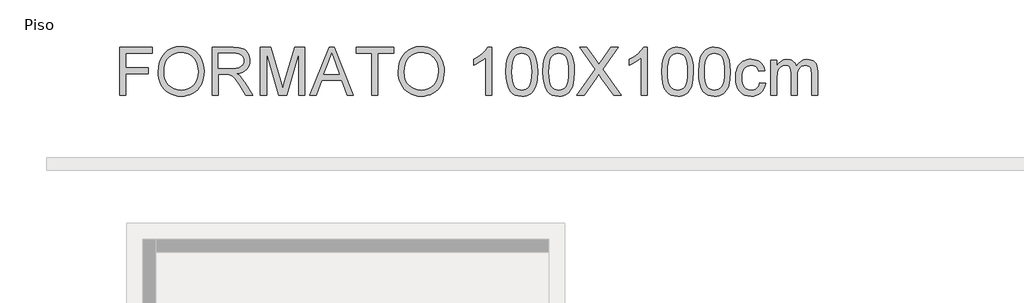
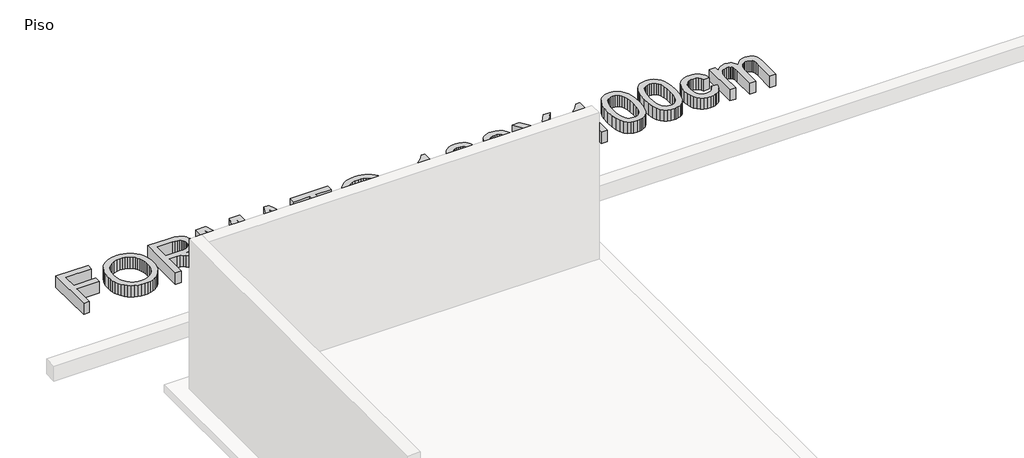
# One storey, part 2 of 2: 1 proxy.
"""IFC4 building model written with IfcOpenShell, lengths in millimetres."""

import ifcopenshell
import ifcopenshell.guid

model = None  # the IFC model being written
_history = None  # IfcOwnerHistory: only IFC2X3 demands one
_inside = {}  # id of a spatial element -> (the spatial element, [elements in it])
_under = {}  # id of a project, library or spatial element -> (it, [spatial elements below it])
_declared = {}  # id of a project -> (the project, [libraries it declares])
_typed = {}  # id of a type object -> (the type object, [elements of that type])
_made_of = {}  # id of a material, layer set ... -> (it, [elements and type objects made of it])


def new_model(schema):
    """Start an empty IFC model of exactly this schema.

    Asked for "IFC4X3", IfcOpenShell would pick the latest addendum, in which some entities
    have other attributes; the version numbers below select the first issue.
    IFC2X3 requires an IfcOwnerHistory on every rooted entity: one is made here for all.
    """
    global model, _history
    if schema == "IFC4X3":
        model = ifcopenshell.file(schema_version=(4, 3, 0, 0))
    else:
        model = ifcopenshell.file(schema=schema)
    _inside.clear()
    _under.clear()
    _declared.clear()
    _typed.clear()
    _made_of.clear()
    _history = None
    if model.schema == "IFC2X3":
        org = make("IfcOrganization", Name="unknown")
        user = make(
            "IfcPersonAndOrganization",
            ThePerson=make("IfcPerson", FamilyName="unknown"),
            TheOrganization=org,
        )
        app = make(
            "IfcApplication",
            ApplicationDeveloper=org,
            Version="unknown",
            ApplicationFullName="unknown",
            ApplicationIdentifier="unknown",
        )
        _history = make(
            "IfcOwnerHistory",
            OwningUser=user,
            OwningApplication=app,
            ChangeAction="ADDED",
            CreationDate=0,
        )
    return model


def make(cls, **values):
    """One entity of the class cls with the attributes given. An attribute that is None is left unset."""
    return model.create_entity(
        cls, **{name: value for name, value in values.items() if value is not None}
    )


def rooted(cls, **values):
    """An entity with a GlobalId (a new one), such as an element, a storey or a relation."""
    return make(cls, GlobalId=ifcopenshell.guid.new(), OwnerHistory=_history, **values)


def si_unit(unit_type, name, prefix=None):
    """IfcSIUnit, for example si_unit("LENGTHUNIT", "METRE", prefix="MILLI")."""
    return make("IfcSIUnit", UnitType=unit_type, Prefix=prefix, Name=name)


def assignment(units):
    """IfcUnitAssignment: the units of a project."""
    return None if units is None else make("IfcUnitAssignment", Units=units)


def point(xyz):
    """IfcCartesianPoint."""
    return None if xyz is None else make("IfcCartesianPoint", Coordinates=xyz)


def direction(xyz):
    """IfcDirection."""
    return None if xyz is None else make("IfcDirection", DirectionRatios=xyz)


def frame(location, z_axis=None, x_axis=None):
    """IfcAxis2Placement3D, a coordinate frame: its origin and axes. An axis left out is left unset."""
    return make(
        "IfcAxis2Placement3D",
        Location=point(location),
        Axis=direction(z_axis),
        RefDirection=direction(x_axis),
    )


def origin():
    """The frame at (0, 0, 0) with its axes left unset."""
    return frame((0.0, 0.0, 0.0))


def origin_with_axes():
    """The frame at (0, 0, 0) with the z axis (0, 0, 1) and the x axis (1, 0, 0) written out."""
    return frame((0.0, 0.0, 0.0), z_axis=(0.0, 0.0, 1.0), x_axis=(1.0, 0.0, 0.0))


def place(relative_to, where):
    """IfcLocalPlacement: puts the frame where relative to a parent placement (None: the world)."""
    return make(
        "IfcLocalPlacement", PlacementRelTo=relative_to, RelativePlacement=where
    )


def context(
    kind, dimensions, precision=None, world=None, true_north=None, identifier=None
):
    """IfcGeometricRepresentationContext, for example the 3D "Model" context."""
    return make(
        "IfcGeometricRepresentationContext",
        ContextIdentifier=identifier,
        ContextType=kind,
        CoordinateSpaceDimension=dimensions,
        Precision=precision,
        WorldCoordinateSystem=world,
        TrueNorth=true_north,
    )


def project(units=None, contexts=None):
    """IfcProject with its units and contexts."""
    return rooted(
        "IfcProject",
        Name="project",
        RepresentationContexts=contexts,
        UnitsInContext=assignment(units),
    )


def spatial(cls, under=None, at=None, **own):
    """A site, building, storey or space (cls), placed at a placement, below another one or the project."""
    s = rooted(cls, ObjectPlacement=at, **own)
    if under is not None:
        _under.setdefault(under.id(), (under, []))[1].append(s)
    return s


def polyline(points):
    """IfcPolyline through the points."""
    return make("IfcPolyline", Points=[point(p) for p in points])


def outline(outer, holes=None, kind="AREA"):
    """IfcArbitraryClosedProfileDef: a profile drawn as a closed curve; with holes, ...WithVoids."""
    if holes is None:
        return make("IfcArbitraryClosedProfileDef", ProfileType=kind, OuterCurve=outer)
    return make(
        "IfcArbitraryProfileDefWithVoids",
        ProfileType=kind,
        OuterCurve=outer,
        InnerCurves=holes,
    )


def extrude(swept, where, along, depth):
    """IfcExtrudedAreaSolid: the profile swept, set in the frame where, extruded along a direction by depth."""
    return make(
        "IfcExtrudedAreaSolid",
        SweptArea=swept,
        Position=where,
        ExtrudedDirection=direction(along),
        Depth=depth,
    )


def shape(context_of_items, identifier, shape_type, items):
    """IfcShapeRepresentation: the items that make up one representation, for example the "Body"."""
    return make(
        "IfcShapeRepresentation",
        ContextOfItems=context_of_items,
        RepresentationIdentifier=identifier,
        RepresentationType=shape_type,
        Items=items,
    )


def made_of(thing, what):
    """Note that an element or type object is made of a material, layer set ...; save() writes the relation."""
    if what is not None:
        _made_of.setdefault(what.id(), (what, []))[1].append(thing)
    return thing


def element(
    cls,
    number,
    at=None,
    inside=None,
    cuts=None,
    type_object=None,
    material=None,
    context=None,
    identifier="Body",
    shape_type=None,
    held_by="IfcProductDefinitionShape",
    body=None,
    shapes=None,
    **own,
):
    """One element of the class cls, such as IfcWall. Its Tag is "e" and its number.

    at: its placement. inside: the storey or other place that contains it. cuts: it is an
    opening in that element (IfcRelVoidsElement). A single representation is given by context,
    identifier, shape_type and body (its items); several are given by shapes. held_by: the class
    of the entity that holds the representations. save() writes the other relations.
    """
    e = rooted(cls, Tag="e%d" % number, ObjectPlacement=at, **own)
    if body is not None:
        shapes = [shape(context, identifier, shape_type, body)]
    if shapes is not None:
        e.Representation = make(held_by, Representations=shapes)
    if inside is not None:
        _inside.setdefault(inside.id(), (inside, []))[1].append(e)
    if cuts is not None:
        rooted(
            "IfcRelVoidsElement", RelatingBuildingElement=cuts, RelatedOpeningElement=e
        )
    if type_object is not None:
        _typed.setdefault(type_object.id(), (type_object, []))[1].append(e)
    return made_of(e, material)


def aggregate(whole, parts):
    """IfcRelAggregates: a whole, such as a stair, and the parts it consists of."""
    return rooted("IfcRelAggregates", RelatingObject=whole, RelatedObjects=parts)


def save(model, path):
    """Write the relations noted so far, then the file.

    IfcRelAggregates (storeys below a building ...), IfcRelContainedInSpatialStructure (elements
    in a storey), IfcRelDefinesByType, IfcRelAssociatesMaterial and IfcRelDeclares: one each for
    every whole, place, type object, material and project.
    """
    for whole, parts in _under.values():
        aggregate(whole, parts)
    for where, things in _inside.values():
        rooted(
            "IfcRelContainedInSpatialStructure",
            RelatedElements=things,
            RelatingStructure=where,
        )
    for kind, things in _typed.values():
        rooted("IfcRelDefinesByType", RelatedObjects=things, RelatingType=kind)
    for what, things in _made_of.values():
        rooted("IfcRelAssociatesMaterial", RelatedObjects=things, RelatingMaterial=what)
    for by, libraries in _declared.values():
        rooted("IfcRelDeclares", RelatingContext=by, RelatedDefinitions=libraries)
    model.write(path)


model = new_model("IFC4")

# Units and contexts
model_context = context("Model", 3, world=origin())
ifc_project = project(units=[si_unit("LENGTHUNIT", "METRE", prefix="MILLI")], contexts=[model_context])

# Site, building, storey
site = spatial("IfcSite", under=ifc_project)
building = spatial("IfcBuilding", under=site)
storey = spatial("IfcBuildingStorey", under=building, Name="Piso", Elevation=0.0)

# Proxy
placement = place(None, origin())
element("IfcBuildingElementProxy", 1, Name="600mm Arial", ObjectType="600mm Arial", at=placement, inside=storey, context=model_context, shape_type="SweptSolid", body=[
    extrude(outline(polyline([(92602.0859381, 2702.6380465), (92602.0859381, 3305.3759074), (93007.0504384, 3305.3759074), (93007.0504384, 3230.0336748), (92677.4281707, 3230.0336748), (92677.4281707, 3051.0958724), (92959.961543, 3051.0958724), (92959.961543, 2975.7536397), (92677.4281707, 2975.7536397), (92677.4281707, 2702.6380465), (92602.0859381, 2702.6380465)])), origin_with_axes(), (0.0, 0.0, 1.0), 150.0),
    extrude(outline(polyline([(93082.392671, 2996.0607259), (93087.4142602, 3066.7584483), (93102.4790279, 3129.3443727), (93127.5869741, 3183.8184992), (93143.9071391, 3208.0136381), (93162.7380987, 3230.1808276), (93205.8262774, 3267.1989534), (93254.7453857, 3293.6404718), (93309.4954237, 3309.5053828), (93370.0763912, 3314.7936865), (93410.6261841, 3312.310483), (93449.134232, 3304.8608726), (93485.6005348, 3292.4448553), (93520.0250925, 3275.062431), (93551.4422148, 3253.2378317), (93578.8862117, 3227.495289), (93602.357083, 3197.8348032), (93621.8548287, 3164.2563741), (93637.1771138, 3127.5233569), (93648.1216032, 3088.3991067), (93654.6882968, 3046.8836235), (93656.8771947, 3002.9769074), (93654.5733337, 2958.4907771), (93647.6617507, 2916.4142739), (93636.1424457, 2876.7473978), (93620.0154187, 2839.4901487), (93599.6623474, 2805.6266111), (93575.4649091, 2776.1408692), (93547.423104, 2751.032923), (93515.5369321, 2730.3027726), (93481.0617906, 2714.0791766), (93445.2530769, 2702.4908937), (93408.110791, 2695.537924), (93369.6349328, 2693.2202674), (93328.3769671, 2695.7816458), (93289.3630815, 2703.465781), (93252.5932761, 2716.272673), (93218.0675508, 2734.2023217), (93186.6872166, 2756.56035), (93159.3535844, 2782.6523805), (93136.0666541, 2812.4784132), (93116.8264257, 2846.0384482), (93101.761658, 2881.9851177), (93091.0011097, 2918.9710538), (93084.5447807, 2956.9962565), (93082.392671, 2996.0607259)]), holes=[polyline([(93157.7349036, 2995.3249619), (93161.5010955, 2945.375784), (93172.7996713, 2901.0368065), (93191.6306309, 2862.3080295), (93217.9939744, 2829.1894529), (93250.0410947, 2802.665161), (93285.9233848, 2783.7192383), (93325.6408447, 2772.3516846), (93369.1934744, 2768.5625001), (93413.4910652, 2772.3884728), (93453.6775746, 2783.8663911), (93489.7530028, 2802.9962548), (93521.7173496, 2829.7780641), (93547.8875551, 2863.5956165), (93566.5805589, 2903.8327097), (93577.7963613, 2950.4893437), (93581.5349621, 3003.5655186), (93579.9346754, 3038.0452586), (93575.1338153, 3070.2625243), (93567.1323819, 3100.2173158), (93555.9303752, 3127.9096329), (93541.6519553, 3152.9761924), (93524.4212823, 3175.0537106), (93504.2383563, 3194.1421877), (93481.1031774, 3210.2416235), (93455.7331153, 3223.0209243), (93428.84554, 3232.1489963), (93400.4404514, 3237.6258395), (93370.5178496, 3239.4514539), (93328.4781346, 3235.9335823), (93289.4734461, 3225.3799676), (93253.503784, 3207.7906097), (93220.5691484, 3183.1655086), (93193.0791663, 3150.318245), (93173.4434648, 3108.0623993), (93161.6620439, 3056.3979716), (93157.7349036, 2995.3249619)])]), origin_with_axes(), (0.0, 0.0, 1.0), 150.0),
    extrude(outline(polyline([(93760.4727645, 2702.6380465), (93760.4727645, 3305.3759074), (94020.1974531, 3305.3759074), (94090.0030617, 3301.3108114), (94140.7891711, 3289.1155232), (94160.3880844, 3279.4218327), (94177.9084644, 3266.6011451), (94193.3503112, 3250.6534606), (94206.7136247, 3231.5787792), (94217.4971656, 3210.4025718), (94225.1996949, 3188.1503097), (94229.8212125, 3164.8219926), (94231.3617183, 3140.4176208), (94228.809537, 3109.4603509), (94221.152993, 3081.0414668), (94208.3920863, 3055.1609684), (94190.5268169, 3031.8188558), (94167.3272585, 3011.76009), (94138.563485, 2995.7296321), (94104.2354964, 2983.727482), (94064.3432925, 2975.7536397), (94089.1753272, 2959.5300438), (94107.1647568, 2943.527177), (94138.0300562, 2906.9229184), (94168.233168, 2865.9776524), (94268.738529, 2702.6380465), (94181.1826142, 2702.6380465), (94102.7501728, 2827.5707721), (94046.0963456, 2910.2706446), (94025.0351013, 2934.3853094), (94006.2915137, 2949.3397125), (93970.4598074, 2963.6871103), (93926.7554263, 2966.3358607), (93835.8149971, 2966.3358607), (93835.8149971, 2702.6380465), (93760.4727645, 2702.6380465)]), holes=[polyline([(93835.8149971, 3041.6780933), (94004.4521037, 3041.6780933), (94052.8837684, 3044.3452377), (94090.4629142, 3052.3466711), (94118.7530396, 3066.2158224), (94139.3176431, 3086.4861203), (94151.8440251, 3111.0054553), (94156.0194857, 3137.6217176), (94154.0283244, 3156.8895371), (94148.0548405, 3174.3731289), (94138.099034, 3190.0724931), (94124.1609049, 3203.9876296), (94105.9185565, 3215.3827744), (94083.050092, 3223.5221635), (94055.5555114, 3228.405797), (94023.4348147, 3230.0336748), (93835.8149971, 3230.0336748), (93835.8149971, 3041.6780933)])]), origin_with_axes(), (0.0, 0.0, 1.0), 150.0),
    extrude(outline(polyline([(94363.2106254, 2702.6380465), (94363.2106254, 3305.3759074), (94492.8522405, 3305.3759074), (94616.1662853, 2880.5457794), (94641.0351082, 2791.8126422), (94667.9640702, 2887.9034193), (94789.2179758, 3305.3759074), (94918.8595909, 3305.3759074), (94918.8595909, 2702.6380465), (94843.5173583, 2702.6380465), (94843.5173583, 3230.0336748), (94692.0971291, 2702.6380465), (94589.9730872, 2702.6380465), (94438.552858, 3230.0336748), (94438.552858, 2702.6380465), (94363.2106254, 2702.6380465)])), origin_with_axes(), (0.0, 0.0, 1.0), 150.0),
    extrude(outline(polyline([(94980.5166133, 2702.6380465), (95221.1114382, 3305.3759074), (95285.2700581, 3305.3759074), (95525.864883, 2702.6380465), (95446.2552192, 2702.6380465), (95377.2405569, 2890.9936281), (95128.9937866, 2890.9936281), (95060.1262771, 2702.6380465), (94980.5166133, 2702.6380465)]), holes=[polyline([(95156.6585126, 2966.3358607), (95349.7229837, 2966.3358607), (95295.4236012, 3114.5187283), (95253.1907481, 3230.0336748), (95215.6667846, 3127.4681746), (95156.6585126, 2966.3358607)])]), origin_with_axes(), (0.0, 0.0, 1.0), 150.0),
    extrude(outline(polyline([(95757.0419287, 2702.6380465), (95757.0419287, 3230.0336748), (95559.2685681, 3230.0336748), (95559.2685681, 3305.3759074), (96030.1575219, 3305.3759074), (96030.1575219, 3230.0336748), (95832.3841613, 3230.0336748), (95832.3841613, 2702.6380465), (95757.0419287, 2702.6380465)])), origin_with_axes(), (0.0, 0.0, 1.0), 150.0),
    extrude(outline(polyline([(96086.6641964, 2996.0607259), (96091.6857856, 3066.7584483), (96106.7505533, 3129.3443727), (96131.8584995, 3183.8184992), (96148.1786645, 3208.0136381), (96167.0096242, 3230.1808276), (96210.0978028, 3267.1989534), (96259.0169111, 3293.6404718), (96313.7669491, 3309.5053828), (96374.3479166, 3314.7936865), (96414.8977096, 3312.310483), (96453.4057574, 3304.8608726), (96489.8720602, 3292.4448553), (96524.2966179, 3275.062431), (96555.7137403, 3253.2378317), (96583.1577371, 3227.495289), (96606.6286084, 3197.8348032), (96626.1263541, 3164.2563741), (96641.4486392, 3127.5233569), (96652.3931286, 3088.3991067), (96658.9598222, 3046.8836235), (96661.1487201, 3002.9769074), (96658.8448591, 2958.4907771), (96651.9332761, 2916.4142739), (96640.4139711, 2876.7473978), (96624.2869442, 2839.4901487), (96603.9338728, 2805.6266111), (96579.7364345, 2776.1408692), (96551.6946295, 2751.032923), (96519.8084575, 2730.3027726), (96485.3333161, 2714.0791766), (96449.5246024, 2702.4908937), (96412.3823164, 2695.537924), (96373.9064582, 2693.2202674), (96332.6484925, 2695.7816458), (96293.6346069, 2703.465781), (96256.8648015, 2716.272673), (96222.3390762, 2734.2023217), (96190.958742, 2756.56035), (96163.6251098, 2782.6523805), (96140.3381795, 2812.4784132), (96121.0979512, 2846.0384482), (96106.0331835, 2881.9851177), (96095.2726351, 2918.9710538), (96088.8163061, 2956.9962565), (96086.6641964, 2996.0607259)]), holes=[polyline([(96162.006429, 2995.3249619), (96165.7726209, 2945.375784), (96177.0711967, 2901.0368065), (96195.9021564, 2862.3080295), (96222.2654998, 2829.1894529), (96254.3126201, 2802.665161), (96290.1949102, 2783.7192383), (96329.9123701, 2772.3516846), (96373.4649998, 2768.5625001), (96417.7625906, 2772.3884728), (96457.9491, 2783.8663911), (96494.0245282, 2802.9962548), (96525.988875, 2829.7780641), (96552.1590805, 2863.5956165), (96570.8520844, 2903.8327097), (96582.0678867, 2950.4893437), (96585.8064875, 3003.5655186), (96584.2062008, 3038.0452586), (96579.4053407, 3070.2625243), (96571.4039074, 3100.2173158), (96560.2019006, 3127.9096329), (96545.9234807, 3152.9761924), (96528.6928077, 3175.0537106), (96508.5098818, 3194.1421877), (96485.3747028, 3210.2416235), (96460.0046407, 3223.0209243), (96433.1170654, 3232.1489963), (96404.7119768, 3237.6258395), (96374.789375, 3239.4514539), (96332.74966, 3235.9335823), (96293.7449715, 3225.3799676), (96257.7753094, 3207.7906097), (96224.8406738, 3183.1655086), (96197.3506917, 3150.318245), (96177.7149902, 3108.0623993), (96165.9335693, 3056.3979716), (96162.006429, 2995.3249619)])]), origin_with_axes(), (0.0, 0.0, 1.0), 150.0),
    extrude(outline(polyline([(97254.4688019, 2702.6380465), (97179.1265693, 2702.6380465), (97179.1265693, 3172.349778), (97147.6726587, 3146.910738), (97107.7574622, 3121.5084862), (97065.855703, 3099.3068078), (97028.4421041, 3083.4694879), (97028.4421041, 3154.6914422), (97087.615923, 3186.8811168), (97138.880279, 3225.1776325), (97179.2921162, 3265.9021693), (97205.9083785, 3305.3759074), (97254.4688019, 3305.3759074), (97254.4688019, 2702.6380465)])), origin_with_axes(), (0.0, 0.0, 1.0), 150.0),
    extrude(outline(polyline([(97433.4066044, 2999.1509346), (97438.9432284, 3095.6279879), (97445.8640084, 3136.5410643), (97455.5531005, 3172.5705072), (97467.9691178, 3204.0106222), (97483.0706737, 3231.1557149), (97500.8577682, 3254.0057853), (97521.3304012, 3272.5608335), (97544.5575507, 3286.9174283), (97570.6081945, 3297.1721389), (97599.4823325, 3303.3249653), (97631.179965, 3305.3759074), (97677.6066727, 3300.5198651), (97719.1773382, 3285.9517381), (97753.9421867, 3262.2417435), (97779.9514438, 3229.9600984), (97799.5963424, 3189.3827143), (97815.2681153, 3140.7855028), (97825.532023, 3079.0732981), (97828.9533256, 2999.1509346), (97823.4718838, 2903.2257044), (97816.6200817, 2862.4505838), (97807.0275587, 2826.4671261), (97794.7081103, 2795.0132155), (97779.6755323, 2767.8267361), (97761.9298246, 2744.9076878), (97741.4709871, 2726.2560706), (97718.2162465, 2711.8029067), (97692.0828293, 2701.4792182), (97663.0707354, 2695.2850051), (97631.179965, 2693.2202674), (97589.6828759, 2696.8071169), (97552.8946764, 2707.5676653), (97520.8153664, 2725.5019125), (97493.444946, 2750.6098587), (97467.1781715, 2795.9972999), (97448.4161898, 2852.5499596), (97437.1590007, 2920.2678378), (97433.4066044, 2999.1509346)]), holes=[polyline([(97508.748837, 2999.2980874), (97510.9561289, 2933.8012967), (97517.5780048, 2880.7849027), (97528.6144647, 2840.2489053), (97544.0655085, 2812.1933047), (97562.7539139, 2793.1048277), (97583.5024584, 2779.4702012), (97606.3111421, 2771.2894254), (97631.179965, 2768.5625001), (97656.0487878, 2771.2986224), (97678.8574715, 2779.5069894), (97699.6060161, 2793.1876011), (97718.2944214, 2812.3404575), (97733.7454652, 2840.4420434), (97744.7819251, 2880.9688437), (97751.403801, 2933.9208584), (97753.611093, 2999.2980874), (97751.4773774, 3063.0612342), (97745.0762307, 3115.1441277), (97734.4076528, 3155.5467678), (97719.4716438, 3184.2691546), (97701.0959381, 3204.2911322), (97680.1082703, 3218.5925448), (97656.5086403, 3227.1733923), (97630.2970482, 3230.0336748), (97605.556984, 3227.5136831), (97583.1345764, 3219.9537081), (97563.0298254, 3207.3537498), (97545.2427309, 3189.7138081), (97529.2766523, 3158.4438385), (97517.8723104, 3116.2845619), (97511.0297053, 3063.2359782), (97508.748837, 2999.2980874)])]), origin_with_axes(), (0.0, 0.0, 1.0), 150.0),
    extrude(outline(polyline([(97894.8777791, 2999.1509346), (97900.4144031, 3095.6279879), (97907.3351832, 3136.5410643), (97917.0242752, 3172.5705072), (97929.4402925, 3204.0106222), (97944.5418484, 3231.1557149), (97962.3289429, 3254.0057853), (97982.8015759, 3272.5608335), (98006.0287254, 3286.9174283), (98032.0793692, 3297.1721389), (98060.9535073, 3303.3249653), (98092.6511397, 3305.3759074), (98139.0778475, 3300.5198651), (98180.648513, 3285.9517381), (98215.4133615, 3262.2417435), (98241.4226186, 3229.9600984), (98261.0675171, 3189.3827143), (98276.7392901, 3140.7855028), (98287.0031978, 3079.0732981), (98290.4245003, 2999.1509346), (98284.9430586, 2903.2257044), (98278.0912564, 2862.4505838), (98268.4987334, 2826.4671261), (98256.1792851, 2795.0132155), (98241.1467071, 2767.8267361), (98223.4009993, 2744.9076878), (98202.9421619, 2726.2560706), (98179.6874212, 2711.8029067), (98153.554004, 2701.4792182), (98124.5419102, 2695.2850051), (98092.6511397, 2693.2202674), (98051.1540507, 2696.8071169), (98014.3658511, 2707.5676653), (97982.2865412, 2725.5019125), (97954.9161207, 2750.6098587), (97928.6493463, 2795.9972999), (97909.8873645, 2852.5499596), (97898.6301755, 2920.2678378), (97894.8777791, 2999.1509346)]), holes=[polyline([(97970.2200117, 2999.2980874), (97972.4273037, 2933.8012967), (97979.0491796, 2880.7849027), (97990.0856395, 2840.2489053), (98005.5366833, 2812.1933047), (98024.2250886, 2793.1048277), (98044.9736331, 2779.4702012), (98067.7823168, 2771.2894254), (98092.6511397, 2768.5625001), (98117.5199626, 2771.2986224), (98140.3286463, 2779.5069894), (98161.0771908, 2793.1876011), (98179.7655962, 2812.3404575), (98195.21664, 2840.4420434), (98206.2530998, 2880.9688437), (98212.8749757, 2933.9208584), (98215.0822677, 2999.2980874), (98212.9485521, 3063.0612342), (98206.5474054, 3115.1441277), (98195.8788276, 3155.5467678), (98180.9428186, 3184.2691546), (98162.5671129, 3204.2911322), (98141.5794451, 3218.5925448), (98117.9798151, 3227.1733923), (98091.7682229, 3230.0336748), (98067.0281587, 3227.5136831), (98044.6057511, 3219.9537081), (98024.5010001, 3207.3537498), (98006.7139056, 3189.7138081), (97990.747827, 3158.4438385), (97979.3434852, 3116.2845619), (97972.5008801, 3063.2359782), (97970.2200117, 2999.2980874)])]), origin_with_axes(), (0.0, 0.0, 1.0), 150.0),
    extrude(outline(polyline([(98318.6778375, 2702.6380465), (98551.0321057, 3031.0830918), (98356.3489539, 3305.3759074), (98446.7007719, 3305.3759074), (98556.3296064, 3151.0126222), (98582.4860163, 3111.9067662), (98593.2649587, 3090.8271278), (98636.5278814, 3152.0426918), (98744.9794936, 3305.3759074), (98836.6556868, 3305.3759074), (98641.9725349, 3030.200175), (98874.3268031, 2702.6380465), (98783.974985, 2702.6380465), (98629.1702415, 2921.0127989), (98596.9437787, 2966.3358607), (98561.4799544, 2916.5982149), (98410.3540307, 2702.6380465), (98318.6778375, 2702.6380465)])), origin_with_axes(), (0.0, 0.0, 1.0), 150.0),
    extrude(outline(polyline([(99203.9490707, 2702.6380465), (99128.6068381, 2702.6380465), (99128.6068381, 3172.349778), (99097.1529275, 3146.910738), (99057.2377311, 3121.5084862), (99015.3359718, 3099.3068078), (98977.9223729, 3083.4694879), (98977.9223729, 3154.6914422), (99037.0961918, 3186.8811168), (99088.3605479, 3225.1776325), (99128.772385, 3265.9021693), (99155.3886474, 3305.3759074), (99203.9490707, 3305.3759074), (99203.9490707, 2702.6380465)])), origin_with_axes(), (0.0, 0.0, 1.0), 150.0),
    extrude(outline(polyline([(99382.8868732, 2999.1509346), (99388.4234972, 3095.6279879), (99395.3442773, 3136.5410643), (99405.0333693, 3172.5705072), (99417.4493866, 3204.0106222), (99432.5509425, 3231.1557149), (99450.338037, 3254.0057853), (99470.81067, 3272.5608335), (99494.0378195, 3286.9174283), (99520.0884633, 3297.1721389), (99548.9626014, 3303.3249653), (99580.6602338, 3305.3759074), (99627.0869416, 3300.5198651), (99668.657607, 3285.9517381), (99703.4224556, 3262.2417435), (99729.4317126, 3229.9600984), (99749.0766112, 3189.3827143), (99764.7483842, 3140.7855028), (99775.0122919, 3079.0732981), (99778.4335944, 2999.1509346), (99772.9521527, 2903.2257044), (99766.1003505, 2862.4505838), (99756.5078275, 2826.4671261), (99744.1883792, 2795.0132155), (99729.1558012, 2767.8267361), (99711.4100934, 2744.9076878), (99690.951256, 2726.2560706), (99667.6965153, 2711.8029067), (99641.5630981, 2701.4792182), (99612.5510043, 2695.2850051), (99580.6602338, 2693.2202674), (99539.1631447, 2696.8071169), (99502.3749452, 2707.5676653), (99470.2956352, 2725.5019125), (99442.9252148, 2750.6098587), (99416.6584403, 2795.9972999), (99397.8964586, 2852.5499596), (99386.6392695, 2920.2678378), (99382.8868732, 2999.1509346)]), holes=[polyline([(99458.2291058, 2999.2980874), (99460.4363978, 2933.8012967), (99467.0582737, 2880.7849027), (99478.0947335, 2840.2489053), (99493.5457773, 2812.1933047), (99512.2341827, 2793.1048277), (99532.9827272, 2779.4702012), (99555.7914109, 2771.2894254), (99580.6602338, 2768.5625001), (99605.5290567, 2771.2986224), (99628.3377404, 2779.5069894), (99649.0862849, 2793.1876011), (99667.7746903, 2812.3404575), (99683.2257341, 2840.4420434), (99694.2621939, 2880.9688437), (99700.8840698, 2933.9208584), (99703.0913618, 2999.2980874), (99700.9576462, 3063.0612342), (99694.5564995, 3115.1441277), (99683.8879216, 3155.5467678), (99668.9519126, 3184.2691546), (99650.576207, 3204.2911322), (99629.5885392, 3218.5925448), (99605.9889092, 3227.1733923), (99579.777317, 3230.0336748), (99555.0372528, 3227.5136831), (99532.6148452, 3219.9537081), (99512.5100942, 3207.3537498), (99494.7229997, 3189.7138081), (99478.7569211, 3158.4438385), (99467.3525793, 3116.2845619), (99460.5099742, 3063.2359782), (99458.2291058, 2999.2980874)])]), origin_with_axes(), (0.0, 0.0, 1.0), 150.0),
    extrude(outline(polyline([(99844.3580479, 2999.1509346), (99849.894672, 3095.6279879), (99856.815452, 3136.5410643), (99866.5045441, 3172.5705072), (99878.9205614, 3204.0106222), (99894.0221173, 3231.1557149), (99911.8092118, 3254.0057853), (99932.2818448, 3272.5608335), (99955.5089943, 3286.9174283), (99981.559638, 3297.1721389), (100010.4337761, 3303.3249653), (100042.1314085, 3305.3759074), (100088.5581163, 3300.5198651), (100130.1287818, 3285.9517381), (100164.8936303, 3262.2417435), (100190.9028874, 3229.9600984), (100210.5477859, 3189.3827143), (100226.2195589, 3140.7855028), (100236.4834666, 3079.0732981), (100239.9047692, 2999.1509346), (100234.4233274, 2903.2257044), (100227.5715253, 2862.4505838), (100217.9790022, 2826.4671261), (100205.6595539, 2795.0132155), (100190.6269759, 2767.8267361), (100172.8812682, 2744.9076878), (100152.4224307, 2726.2560706), (100129.1676901, 2711.8029067), (100103.0342729, 2701.4792182), (100074.022179, 2695.2850051), (100042.1314085, 2693.2202674), (100000.6343195, 2696.8071169), (99963.84612, 2707.5676653), (99931.76681, 2725.5019125), (99904.3963896, 2750.6098587), (99878.1296151, 2795.9972999), (99859.3676333, 2852.5499596), (99848.1104443, 2920.2678378), (99844.3580479, 2999.1509346)]), holes=[polyline([(99919.7002806, 2999.2980874), (99921.9075725, 2933.8012967), (99928.5294484, 2880.7849027), (99939.5659083, 2840.2489053), (99955.0169521, 2812.1933047), (99973.7053574, 2793.1048277), (99994.453902, 2779.4702012), (100017.2625857, 2771.2894254), (100042.1314085, 2768.5625001), (100067.0002314, 2771.2986224), (100089.8089151, 2779.5069894), (100110.5574597, 2793.1876011), (100129.245865, 2812.3404575), (100144.6969088, 2840.4420434), (100155.7333687, 2880.9688437), (100162.3552446, 2933.9208584), (100164.5625365, 2999.2980874), (100162.428821, 3063.0612342), (100156.0276743, 3115.1441277), (100145.3590964, 3155.5467678), (100130.4230874, 3184.2691546), (100112.0473817, 3204.2911322), (100091.0597139, 3218.5925448), (100067.4600839, 3227.1733923), (100041.2484918, 3230.0336748), (100016.5084276, 3227.5136831), (99994.08602, 3219.9537081), (99973.9812689, 3207.3537498), (99956.1941745, 3189.7138081), (99940.2280959, 3158.4438385), (99928.823754, 3116.2845619), (99921.9811489, 3063.2359782), (99919.7002806, 2999.2980874)])]), origin_with_axes(), (0.0, 0.0, 1.0), 150.0),
    extrude(outline(polyline([(100607.1981531, 2862.7402908), (100682.5403858, 2853.3225117), (100674.3458143, 2817.7713154), (100661.5343238, 2786.3128063), (100644.1059143, 2758.9469844), (100622.0605857, 2735.6738497), (100596.3272402, 2717.1004075), (100567.8347797, 2703.833663), (100536.5832042, 2695.8736163), (100502.5725137, 2693.2202674), (100460.316668, 2696.92208), (100422.4294211, 2708.0275178), (100388.9107728, 2726.5365806), (100359.7607232, 2752.4492687), (100336.1656917, 2785.2781382), (100319.3120978, 2824.5357456), (100309.1999415, 2870.2220909), (100305.8292227, 2922.337174), (100311.5865759, 2989.3836677), (100318.7832674, 3019.5545898), (100328.8586356, 3047.4906288), (100341.8816582, 3072.6307646), (100357.9213132, 3094.4139773), (100376.9776006, 3112.8402667), (100399.0505203, 3127.9096329), (100423.1421924, 3139.6266745), (100448.2547371, 3147.9959899), (100474.3881544, 3153.0175791), (100501.5424441, 3154.6914422), (100534.9691219, 3152.3921797), (100565.2044234, 3145.4943923), (100592.2483486, 3133.99808), (100616.1008974, 3117.9032427), (100636.3573998, 3097.5777624), (100652.6131854, 3073.3895213), (100664.8682544, 3045.3385191), (100673.1226067, 3013.4247561), (100597.7803741, 3004.006977), (100584.1135579, 3036.8772332), (100562.8315845, 3060.440075), (100535.1116762, 3074.6219259), (100502.1310553, 3079.3492096), (100476.531067, 3077.022356), (100453.4418733, 3070.0417951), (100432.8634742, 3058.407527), (100414.7958697, 3042.1195517), (100400.0851884, 3020.8007901), (100389.5775589, 2994.0741631), (100383.2729812, 2961.9396708), (100381.1714553, 2924.3973132), (100383.226996, 2886.289337), (100389.3936179, 2853.7823642), (100399.6713211, 2826.8763948), (100414.0601057, 2805.5714288), (100431.7690252, 2789.3800225), (100452.0071335, 2777.8147322), (100474.7744305, 2770.8755581), (100500.0709161, 2768.5625001), (100539.0848017, 2774.3382474), (100555.9567897, 2781.5579315), (100571.0721412, 2791.6654894), (100584.0077919, 2804.7712854), (100594.3406774, 2820.9856844), (100602.0707978, 2840.3086862), (100607.1981531, 2862.7402908)])), origin_with_axes(), (0.0, 0.0, 1.0), 150.0),
    extrude(outline(polyline([(100748.4648393, 2702.6380465), (100748.4648393, 3145.2736631), (100823.8070719, 3145.2736631), (100823.8070719, 3072.4330281), (100846.4686028, 3105.8918955), (100875.6048568, 3132.1034877), (100910.2225526, 3149.0444536), (100949.3284087, 3154.6914422), (100991.2301679, 3148.934089), (101009.0632476, 3141.7373974), (101024.8177941, 3131.6620293), (101049.9073461, 3104.0156974), (101066.3148831, 3067.1355273), (101093.7772741, 3105.4412401), (101125.102426, 3132.8024635), (101160.2903388, 3149.2191975), (101199.3410126, 3154.6914422), (101229.5027377, 3152.4151724), (101255.9764457, 3145.5863628), (101278.7621368, 3134.2050136), (101297.8598109, 3118.2711247), (101312.9567683, 3097.6007551), (101323.7403092, 3072.0099638), (101330.2104338, 3041.4987508), (101332.367142, 3006.0671161), (101332.367142, 2702.6380465), (101257.0249094, 2702.6380465), (101257.0249094, 2973.6935006), (101255.2774699, 3011.2726464), (101250.0351515, 3036.6013217), (101240.2127022, 3053.9469578), (101224.7248702, 3067.5769857), (101204.8040602, 3076.4061536), (101181.6826768, 3079.3492096), (101160.3317255, 3077.4638144), (101140.8661694, 3071.8076287), (101123.2860086, 3062.3806526), (101107.591243, 3049.182886), (101094.6831835, 3031.8280529), (101085.463141, 3009.9298771), (101079.9311155, 2983.4883587), (101078.087107, 2952.5034976), (101078.087107, 2702.6380465), (101002.7448744, 2702.6380465), (101002.7448744, 2982.0812101), (100998.3854727, 3024.6819451), (100992.9362207, 3041.4021818), (100985.3072678, 3055.0689979), (100975.1951114, 3065.6915905), (100962.296249, 3073.2791567), (100946.6106804, 3077.8316964), (100928.1384057, 3079.3492096), (100899.1125163, 3075.3025076), (100872.3674953, 3063.1624018), (100850.2945756, 3043.2231977), (100835.2849902, 3015.7792008), (100826.6765515, 2977.7034143), (100823.8070719, 2925.8688412), (100823.8070719, 2702.6380465), (100748.4648393, 2702.6380465)])), origin_with_axes(), (0.0, 0.0, 1.0), 150.0),
])

save(model, "model.ifc")
